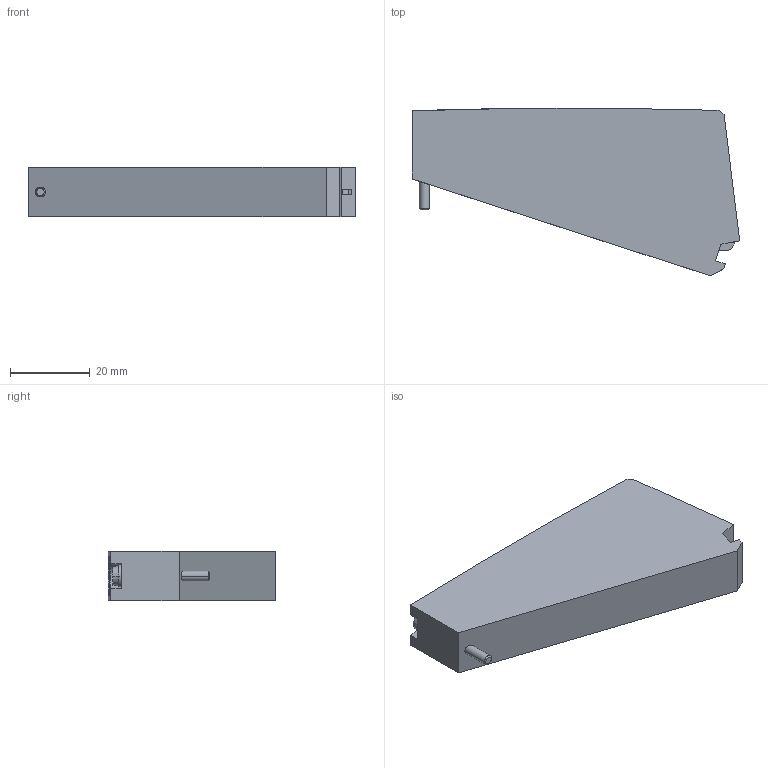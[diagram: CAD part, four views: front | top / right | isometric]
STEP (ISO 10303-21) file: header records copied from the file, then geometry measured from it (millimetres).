
FILE_DESCRIPTION((''),'2;1');
FILE_NAME('R422102425','2015-08-03T',('UAH1HC'),(''),'PRO/ENGINEER BY PARAMETRIC TECHNOLOGY CORPORATION, 2012421','PRO/ENGINEER BY PARAMETRIC TECHNOLOGY CORPORATION, 2012421','');
FILE_SCHEMA(('CONFIG_CONTROL_DESIGN','SHAPE_APPEARANCE_LAYERS_GROUPS'));
Length unit declared in the file: millimetre
Products named in the file (1): R422102425
Bounding box: 81.99 x 42.01 x 12.3 mm (x, y, z)
Volume: 29535.2 mm3; surface area: 7765.1 mm2
Topology: 1 solids, 1 shells, 56 faces, 141 edges, 87 vertices
Faces by surface type: plane 28, cylinder 14, sphere 6, cone 4, torus 4
Entity records: 1874 total; most frequent: CARTESIAN_POINT 482, DIRECTION 283, ORIENTED_EDGE 270, EDGE_CURVE 135, AXIS2_PLACEMENT_3D 103, VERTEX_POINT 87, VECTOR 77, LINE 77
